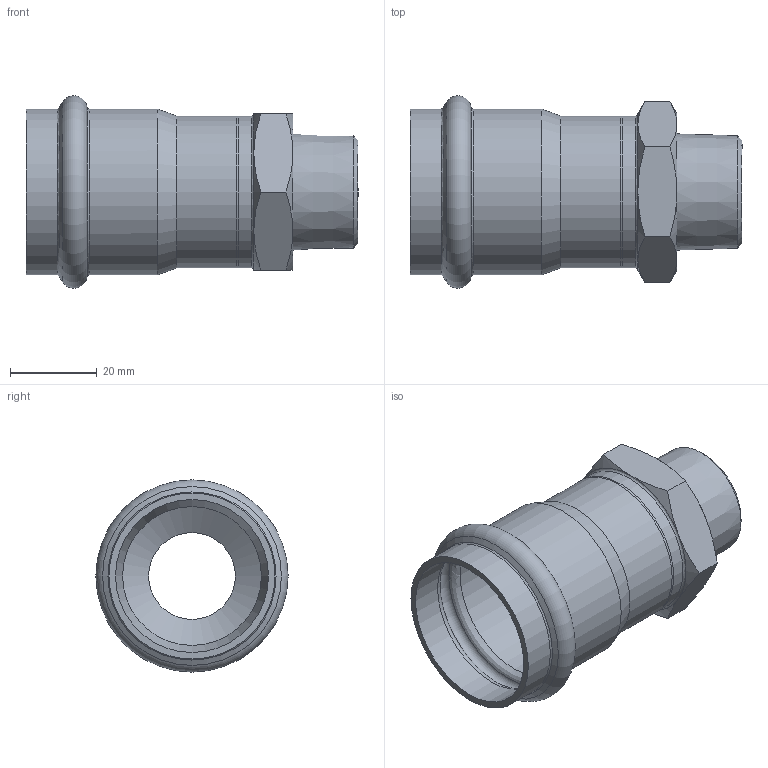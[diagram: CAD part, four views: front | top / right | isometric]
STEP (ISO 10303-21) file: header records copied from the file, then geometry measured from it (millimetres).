
FILE_DESCRIPTION((''),'2;1');
FILE_NAME('G:\Nirosan-Schmiedefeld\Technics\CAD\001 Serie 9.000\035\69243G3534H(0).stp','2018-10-16T10:45:48',('herberg'),(''),'Autodesk Inventor 2009','Autodesk Inventor 2009','');
FILE_SCHEMA(('AUTOMOTIVE_DESIGN { 1 0 10303 214 1 1 1 1 }'));
Length unit declared in the file: centimetre
Products named in the file (3): 69243G3534H(0); HM_69270G35(1); 69ATAG35R34P(0)
Assembly tree (2 placements, depth 2):
  69243G3534H(0)
    HM_69270G35(1)
    69ATAG35R34P(0)
Bounding box: 76.5 x 44.29 x 44.29 mm (x, y, z)
Volume: 18393.4 mm3; surface area: 18293.9 mm2
Topology: 2 solids, 2 shells, 46 faces, 96 edges, 55 vertices
Faces by surface type: cone 18, plane 11, bspline 8, cylinder 7, torus 2
Full cylindrical faces by diameter (mm): 32 x1, 35 x2, 35.25 x2, 38.25 x2
Entity records: 1367 total; most frequent: CARTESIAN_POINT 492, DIRECTION 172, ORIENTED_EDGE 140, AXIS2_PLACEMENT_3D 83, EDGE_LOOP 74, EDGE_CURVE 70, VERTEX_POINT 52, FACE_OUTER_BOUND 46
